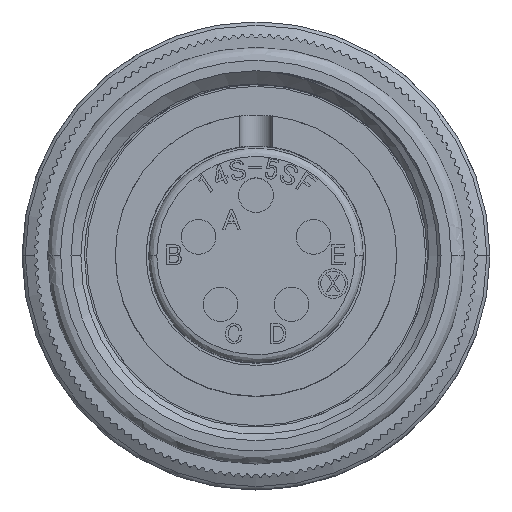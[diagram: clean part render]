
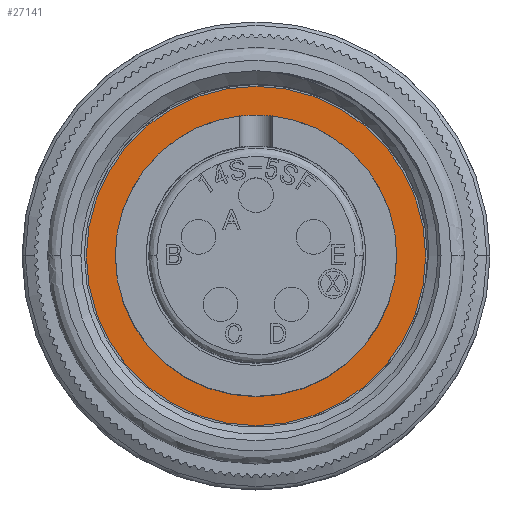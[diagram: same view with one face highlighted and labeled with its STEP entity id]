
A CAD part, top view. The second image highlights one B-rep face of the part: STEP entity #27141.
In plain terms, the highlighted planar face has unit normal (0, 0, 1).
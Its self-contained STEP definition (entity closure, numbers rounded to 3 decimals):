
#139 = EDGE_CURVE ( 'NONE', #27258, #26241, #97901, .T. ) ;
#662 = AXIS2_PLACEMENT_3D ( 'NONE', #72715, #22188, #81150 ) ;
#907 = CARTESIAN_POINT ( 'NONE',  ( 10.34, 0., 9.5 ) ) ;
#2586 = EDGE_LOOP ( 'NONE', ( #35190, #75205 ) ) ;
#6344 = EDGE_CURVE ( 'NONE', #33494, #51874, #108646, .T. ) ;
#8856 = ORIENTED_EDGE ( 'NONE', *, *, #6344, .F. ) ;
#19452 = CARTESIAN_POINT ( 'NONE',  ( -10.34, 0., 9.5 ) ) ;
#22188 = DIRECTION ( 'NONE',  ( 0., 0., -1. ) ) ;
#23390 = EDGE_LOOP ( 'NONE', ( #35748, #8856 ) ) ;
#26241 = VERTEX_POINT ( 'NONE', #56041 ) ;
#27141 = ADVANCED_FACE ( 'NONE', ( #93475, #54020 ), #85585, .F. ) ;
#27258 = VERTEX_POINT ( 'NONE', #98781 ) ;
#33494 = VERTEX_POINT ( 'NONE', #19452 ) ;
#33673 = AXIS2_PLACEMENT_3D ( 'NONE', #61757, #61600, #61387 ) ;
#35190 = ORIENTED_EDGE ( 'NONE', *, *, #139, .F. ) ;
#35212 = CARTESIAN_POINT ( 'NONE',  ( 0., 10.34, 9.5 ) ) ;
#35748 = ORIENTED_EDGE ( 'NONE', *, *, #78947, .F. ) ;
#38441 = CARTESIAN_POINT ( 'NONE',  ( 0., 0., 9.5 ) ) ;
#43658 = DIRECTION ( 'NONE',  ( 0., 0., -1. ) ) ;
#46917 = DIRECTION ( 'NONE',  ( 1., 0., 0. ) ) ;
#51874 = VERTEX_POINT ( 'NONE', #907 ) ;
#54020 = FACE_BOUND ( 'NONE', #2586, .T. ) ;
#56041 = CARTESIAN_POINT ( 'NONE',  ( -8.575, 0., 9.5 ) ) ;
#61387 = DIRECTION ( 'NONE',  ( 1., 0., 0. ) ) ;
#61600 = DIRECTION ( 'NONE',  ( 0., 0., 1. ) ) ;
#61757 = CARTESIAN_POINT ( 'NONE',  ( 0., 0., 9.5 ) ) ;
#63636 = CIRCLE ( 'NONE', #662, 10.34 ) ;
#65792 = AXIS2_PLACEMENT_3D ( 'NONE', #38441, #97248, #46917 ) ;
#66671 = DIRECTION ( 'NONE',  ( 1., 0., 0. ) ) ;
#66773 = DIRECTION ( 'NONE',  ( 0., 0., -1. ) ) ;
#66794 = CARTESIAN_POINT ( 'NONE',  ( 0., 0., 9.5 ) ) ;
#72715 = CARTESIAN_POINT ( 'NONE',  ( 0., 0., 9.5 ) ) ;
#75205 = ORIENTED_EDGE ( 'NONE', *, *, #86434, .F. ) ;
#78947 = EDGE_CURVE ( 'NONE', #51874, #33494, #63636, .T. ) ;
#81150 = DIRECTION ( 'NONE',  ( 1., 0., 0. ) ) ;
#82676 = AXIS2_PLACEMENT_3D ( 'NONE', #66794, #66773, #66671 ) ;
#85585 = PLANE ( 'NONE',  #108754 ) ;
#86434 = EDGE_CURVE ( 'NONE', #26241, #27258, #94417, .T. ) ;
#93475 = FACE_OUTER_BOUND ( 'NONE', #23390, .T. ) ;
#94417 = CIRCLE ( 'NONE', #65792, 8.575 ) ;
#97248 = DIRECTION ( 'NONE',  ( 0., 0., 1. ) ) ;
#97901 = CIRCLE ( 'NONE', #33673, 8.575 ) ;
#98781 = CARTESIAN_POINT ( 'NONE',  ( 8.575, 0., 9.5 ) ) ;
#102404 = DIRECTION ( 'NONE',  ( -1., 0., 0. ) ) ;
#108646 = CIRCLE ( 'NONE', #82676, 10.34 ) ;
#108754 = AXIS2_PLACEMENT_3D ( 'NONE', #35212, #43658, #102404 ) ;
